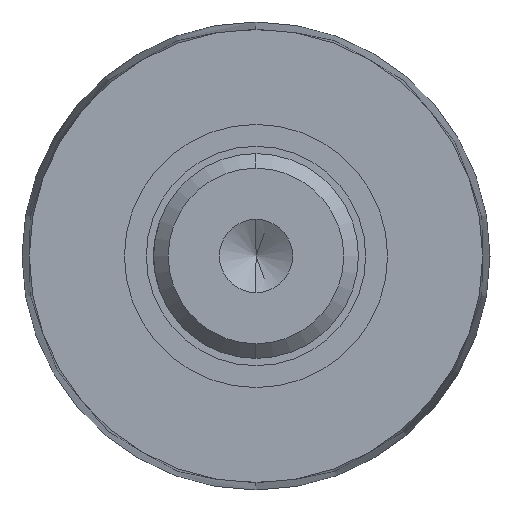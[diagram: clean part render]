
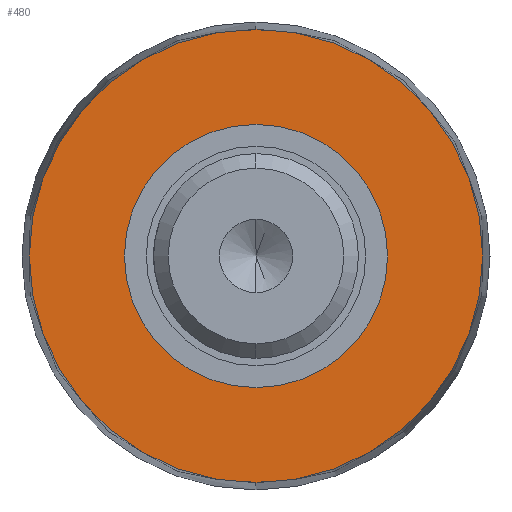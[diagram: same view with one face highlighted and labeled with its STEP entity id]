
A CAD part, left-side view. The second image highlights one B-rep face of the part: STEP entity #480.
In plain terms, the highlighted planar face has unit normal (-1, 0, 0).
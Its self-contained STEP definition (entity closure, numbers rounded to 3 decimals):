
#82 = DIRECTION ( 'NONE',  ( 0., 0., 1. ) ) ;
#141 = CARTESIAN_POINT ( 'NONE',  ( 98.5, 0., 9. ) ) ;
#143 = AXIS2_PLACEMENT_3D ( 'NONE', #850, #784, #394 ) ;
#157 = CIRCLE ( 'NONE', #403, 15.5 ) ;
#181 = EDGE_LOOP ( 'NONE', ( #668, #546 ) ) ;
#188 = VERTEX_POINT ( 'NONE', #141 ) ;
#198 = DIRECTION ( 'NONE',  ( 0., 0., 1. ) ) ;
#238 = CIRCLE ( 'NONE', #376, 9. ) ;
#281 = ORIENTED_EDGE ( 'NONE', *, *, #409, .T. ) ;
#295 = CARTESIAN_POINT ( 'NONE',  ( 98.5, 0., 0. ) ) ;
#321 = EDGE_LOOP ( 'NONE', ( #1130, #281 ) ) ;
#366 = EDGE_CURVE ( 'NONE', #1198, #521, #1040, .T. ) ;
#376 = AXIS2_PLACEMENT_3D ( 'NONE', #295, #1292, #397 ) ;
#389 = CARTESIAN_POINT ( 'NONE',  ( 98.5, 16., 0. ) ) ;
#390 = DIRECTION ( 'NONE',  ( -1., 0., 0. ) ) ;
#394 = DIRECTION ( 'NONE',  ( 0., 0., -1. ) ) ;
#397 = DIRECTION ( 'NONE',  ( 0., 0., -1. ) ) ;
#403 = AXIS2_PLACEMENT_3D ( 'NONE', #624, #1132, #441 ) ;
#409 = EDGE_CURVE ( 'NONE', #188, #889, #238, .T. ) ;
#416 = EDGE_CURVE ( 'NONE', #889, #188, #794, .T. ) ;
#437 = CARTESIAN_POINT ( 'NONE',  ( 98.5, 0., -9. ) ) ;
#441 = DIRECTION ( 'NONE',  ( 0., 0., 1. ) ) ;
#480 = ADVANCED_FACE ( 'NONE', ( #514, #573 ), #501, .T. ) ;
#501 = PLANE ( 'NONE',  #1000 ) ;
#514 = FACE_BOUND ( 'NONE', #321, .T. ) ;
#517 = AXIS2_PLACEMENT_3D ( 'NONE', #778, #390, #82 ) ;
#521 = VERTEX_POINT ( 'NONE', #780 ) ;
#546 = ORIENTED_EDGE ( 'NONE', *, *, #827, .T. ) ;
#573 = FACE_OUTER_BOUND ( 'NONE', #181, .T. ) ;
#624 = CARTESIAN_POINT ( 'NONE',  ( 98.5, 0., 0. ) ) ;
#668 = ORIENTED_EDGE ( 'NONE', *, *, #366, .T. ) ;
#778 = CARTESIAN_POINT ( 'NONE',  ( 98.5, 0., 0. ) ) ;
#780 = CARTESIAN_POINT ( 'NONE',  ( 98.5, 0., 15.5 ) ) ;
#784 = DIRECTION ( 'NONE',  ( 1., 0., 0. ) ) ;
#794 = CIRCLE ( 'NONE', #143, 9. ) ;
#819 = CARTESIAN_POINT ( 'NONE',  ( 98.5, 0., -15.5 ) ) ;
#827 = EDGE_CURVE ( 'NONE', #521, #1198, #157, .T. ) ;
#850 = CARTESIAN_POINT ( 'NONE',  ( 98.5, 0., 0. ) ) ;
#889 = VERTEX_POINT ( 'NONE', #437 ) ;
#1000 = AXIS2_PLACEMENT_3D ( 'NONE', #389, #1307, #198 ) ;
#1040 = CIRCLE ( 'NONE', #517, 15.5 ) ;
#1130 = ORIENTED_EDGE ( 'NONE', *, *, #416, .T. ) ;
#1132 = DIRECTION ( 'NONE',  ( -1., 0., 0. ) ) ;
#1198 = VERTEX_POINT ( 'NONE', #819 ) ;
#1292 = DIRECTION ( 'NONE',  ( 1., 0., 0. ) ) ;
#1307 = DIRECTION ( 'NONE',  ( -1., 0., 0. ) ) ;
